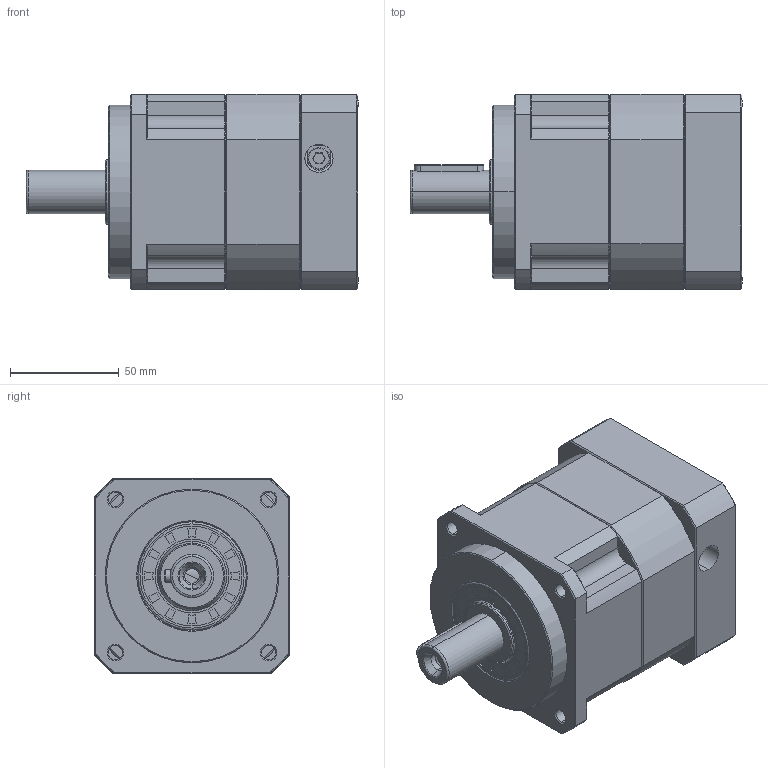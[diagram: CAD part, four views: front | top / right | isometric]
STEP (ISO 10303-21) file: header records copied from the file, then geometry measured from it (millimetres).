
FILE_DESCRIPTION (( 'STEP AP214' ), '1' );
FILE_NAME ('ZPB090-D20-L1-P1-16-80-100-M6.step', '2024-06-07T18:13:32', ( 'Windows 蚚誧' ), ( 'Organization' ), 'SwSTEP 2.0', 'SolidWorks 2016', '' );
FILE_SCHEMA (( 'AUTOMOTIVE_DESIGN' ));
Length unit declared in the file: millimetre
Products named in the file (1): ZPB090-D20-L1-P1-16-80-100-M6
Bounding box: 153 x 90 x 90 mm (x, y, z)
Surface area: 77102.5 mm2 (no closed solid volume)
Topology: 0 solids, 34 shells, 1829 faces, 4926 edges, 3150 vertices
Faces by surface type: plane 936, bspline 389, cone 276, cylinder 226, torus 2
Full cylindrical faces by diameter (mm): 6.72 x4
Entity records: 95445 total; most frequent: CARTESIAN_POINT 48144, ORIENTED_EDGE 9708, DIRECTION 7481, EDGE_CURVE 4874, VECTOR 3203, LINE 3203, VERTEX_POINT 3119, AXIS2_PLACEMENT_3D 2139
